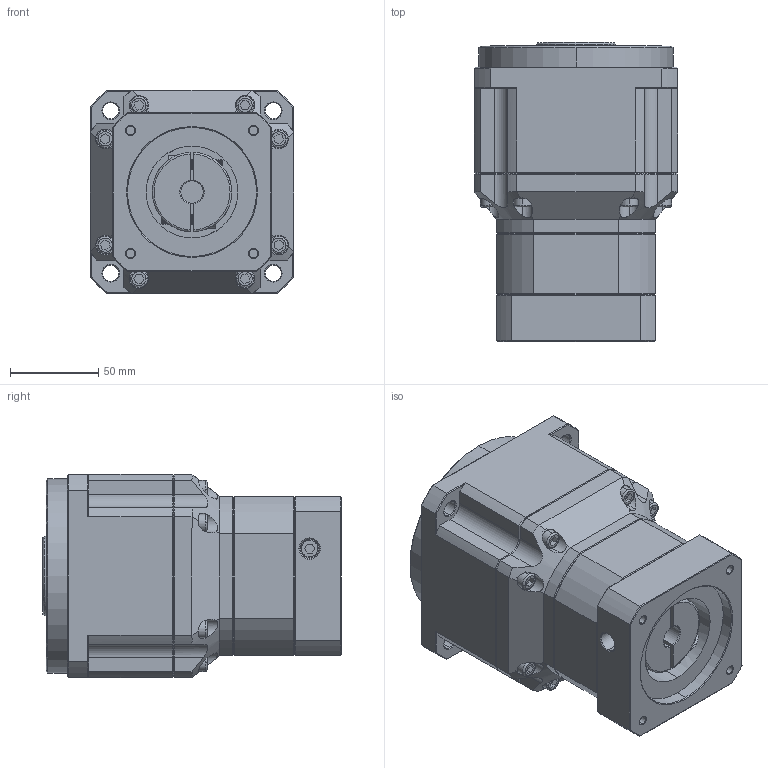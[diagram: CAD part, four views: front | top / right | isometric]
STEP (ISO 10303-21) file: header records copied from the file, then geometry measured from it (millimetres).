
FILE_DESCRIPTION (( 'STEP AP214' ), '1' );
FILE_NAME ('ZPB115-K32-L2-P1-12.7-73-69.6X69.6-M6.step', '2024-06-12T09:59:00', ( 'Windows 蚚誧' ), ( 'Organization' ), 'SwSTEP 2.0', 'SolidWorks 2016', '' );
FILE_SCHEMA (( 'AUTOMOTIVE_DESIGN' ));
Length unit declared in the file: millimetre
Products named in the file (1): ZPB115-K32-L2-P1-12.7-73-69.6X69.6-M6
Bounding box: 115 x 169 x 115 mm (x, y, z)
Surface area: 114709.9 mm2 (no closed solid volume)
Topology: 0 solids, 2 shells, 1734 faces, 4661 edges, 3031 vertices
Faces by surface type: plane 1013, bspline 392, cylinder 187, cone 142
Entity records: 85123 total; most frequent: CARTESIAN_POINT 38467, ORIENTED_EDGE 9320, DIRECTION 6875, EDGE_CURVE 4661, VECTOR 3151, LINE 3151, VERTEX_POINT 3031, AXIS2_PLACEMENT_3D 1862
